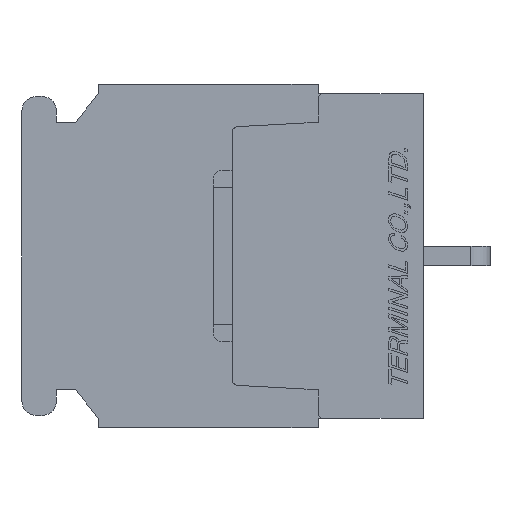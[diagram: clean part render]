
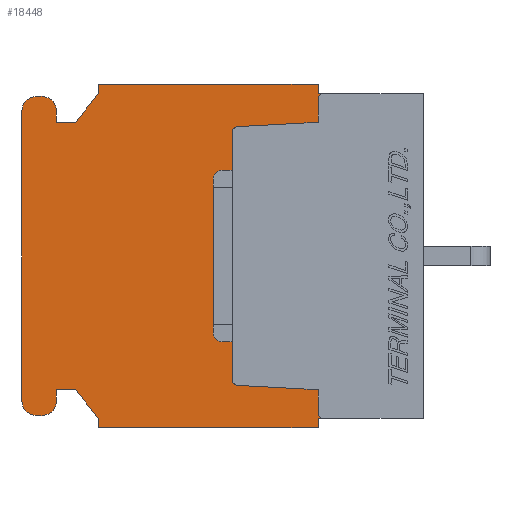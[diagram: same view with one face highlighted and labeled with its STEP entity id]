
A CAD part, left-side view. The second image highlights one B-rep face of the part: STEP entity #18448.
In plain terms, the highlighted planar face has unit normal (-1, 0, 0).
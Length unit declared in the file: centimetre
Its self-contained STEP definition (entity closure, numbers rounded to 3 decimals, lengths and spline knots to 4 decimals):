
#942=CIRCLE('',#31188,0.03);
#944=CIRCLE('',#31191,0.03);
#946=CIRCLE('',#31196,0.03);
#950=CIRCLE('',#31202,0.03);
#958=CIRCLE('',#31359,0.075);
#959=CIRCLE('',#31360,0.075);
#960=CIRCLE('',#31361,0.075);
#961=CIRCLE('',#31362,0.075);
#1573=VERTEX_POINT('',#25211);
#1574=VERTEX_POINT('',#25213);
#1577=VERTEX_POINT('',#25220);
#1578=VERTEX_POINT('',#25222);
#1580=VERTEX_POINT('',#25228);
#1582=VERTEX_POINT('',#25234);
#1584=VERTEX_POINT('',#25240);
#1589=VERTEX_POINT('',#25252);
#1590=VERTEX_POINT('',#25254);
#1592=VERTEX_POINT('',#25260);
#1951=VERTEX_POINT('',#26830);
#1952=VERTEX_POINT('',#26832);
#1953=VERTEX_POINT('',#26834);
#1954=VERTEX_POINT('',#26836);
#1955=VERTEX_POINT('',#26838);
#1956=VERTEX_POINT('',#26840);
#1957=VERTEX_POINT('',#26842);
#1958=VERTEX_POINT('',#26844);
#1959=VERTEX_POINT('',#26846);
#1960=VERTEX_POINT('',#26848);
#1961=VERTEX_POINT('',#26850);
#1962=VERTEX_POINT('',#26852);
#1963=VERTEX_POINT('',#26854);
#1964=VERTEX_POINT('',#26856);
#1965=VERTEX_POINT('',#26858);
#1966=VERTEX_POINT('',#26860);
#1967=VERTEX_POINT('',#26862);
#1968=VERTEX_POINT('',#26864);
#1969=VERTEX_POINT('',#26866);
#1970=VERTEX_POINT('',#26868);
#3524=VECTOR('',#20708,1.);
#3527=VECTOR('',#20712,1.);
#3533=VECTOR('',#20736,1.);
#3536=VECTOR('',#20740,1.);
#3938=VECTOR('',#21274,1.);
#3965=VECTOR('',#21334,1.);
#3966=VECTOR('',#21335,1.);
#3967=VECTOR('',#21336,1.);
#3968=VECTOR('',#21337,1.);
#3969=VECTOR('',#21338,1.);
#3970=VECTOR('',#21339,1.);
#3971=VECTOR('',#21340,1.);
#3972=VECTOR('',#21343,1.);
#3973=VECTOR('',#21346,1.);
#3974=VECTOR('',#21349,1.);
#3975=VECTOR('',#21352,1.);
#3976=VECTOR('',#21353,1.);
#3977=VECTOR('',#21354,1.);
#3978=VECTOR('',#21355,1.);
#3979=VECTOR('',#21356,1.);
#3980=VECTOR('',#21357,1.);
#3981=VECTOR('',#21358,1.);
#5644=LINE('',#25227,#3524);
#5647=LINE('',#25233,#3527);
#5653=LINE('',#25259,#3533);
#5656=LINE('',#25264,#3536);
#6058=LINE('',#26761,#3938);
#6085=LINE('',#26829,#3965);
#6086=LINE('',#26831,#3966);
#6087=LINE('',#26833,#3967);
#6088=LINE('',#26835,#3968);
#6089=LINE('',#26837,#3969);
#6090=LINE('',#26839,#3970);
#6091=LINE('',#26841,#3971);
#6092=LINE('',#26845,#3972);
#6093=LINE('',#26849,#3973);
#6094=LINE('',#26853,#3974);
#6095=LINE('',#26857,#3975);
#6096=LINE('',#26859,#3976);
#6097=LINE('',#26861,#3977);
#6098=LINE('',#26863,#3978);
#6099=LINE('',#26865,#3979);
#6100=LINE('',#26867,#3980);
#6101=LINE('',#26869,#3981);
#7919=EDGE_CURVE('',#1573,#1574,#942,.T.);
#7923=EDGE_CURVE('',#1577,#1578,#944,.T.);
#7926=EDGE_CURVE('',#1578,#1580,#5644,.T.);
#7929=EDGE_CURVE('',#1580,#1582,#5647,.T.);
#7932=EDGE_CURVE('',#1582,#1584,#946,.T.);
#7938=EDGE_CURVE('',#1589,#1590,#950,.T.);
#7941=EDGE_CURVE('',#1590,#1592,#5653,.T.);
#7944=EDGE_CURVE('',#1592,#1573,#5656,.T.);
#8452=EDGE_CURVE('',#1584,#1589,#6058,.T.);
#8485=EDGE_CURVE('',#1577,#1951,#6085,.T.);
#8486=EDGE_CURVE('',#1951,#1952,#6086,.T.);
#8487=EDGE_CURVE('',#1952,#1953,#6087,.T.);
#8488=EDGE_CURVE('',#1953,#1954,#6088,.T.);
#8489=EDGE_CURVE('',#1954,#1955,#6089,.T.);
#8490=EDGE_CURVE('',#1955,#1956,#6090,.T.);
#8491=EDGE_CURVE('',#1956,#1957,#6091,.T.);
#8492=EDGE_CURVE('',#1958,#1957,#958,.T.);
#8493=EDGE_CURVE('',#1958,#1959,#6092,.T.);
#8494=EDGE_CURVE('',#1960,#1959,#959,.T.);
#8495=EDGE_CURVE('',#1960,#1961,#6093,.T.);
#8496=EDGE_CURVE('',#1962,#1961,#960,.T.);
#8497=EDGE_CURVE('',#1962,#1963,#6094,.T.);
#8498=EDGE_CURVE('',#1964,#1963,#961,.T.);
#8499=EDGE_CURVE('',#1964,#1965,#6095,.T.);
#8500=EDGE_CURVE('',#1965,#1966,#6096,.T.);
#8501=EDGE_CURVE('',#1966,#1967,#6097,.T.);
#8502=EDGE_CURVE('',#1967,#1968,#6098,.T.);
#8503=EDGE_CURVE('',#1968,#1969,#6099,.T.);
#8504=EDGE_CURVE('',#1969,#1970,#6100,.T.);
#8505=EDGE_CURVE('',#1970,#1574,#6101,.T.);
#12513=ORIENTED_EDGE('',*,*,#7923,.F.);
#12514=ORIENTED_EDGE('',*,*,#8485,.T.);
#12515=ORIENTED_EDGE('',*,*,#8486,.T.);
#12516=ORIENTED_EDGE('',*,*,#8487,.T.);
#12517=ORIENTED_EDGE('',*,*,#8488,.T.);
#12518=ORIENTED_EDGE('',*,*,#8489,.T.);
#12519=ORIENTED_EDGE('',*,*,#8490,.T.);
#12520=ORIENTED_EDGE('',*,*,#8491,.T.);
#12521=ORIENTED_EDGE('',*,*,#8492,.F.);
#12522=ORIENTED_EDGE('',*,*,#8493,.T.);
#12523=ORIENTED_EDGE('',*,*,#8494,.F.);
#12524=ORIENTED_EDGE('',*,*,#8495,.T.);
#12525=ORIENTED_EDGE('',*,*,#8496,.F.);
#12526=ORIENTED_EDGE('',*,*,#8497,.T.);
#12527=ORIENTED_EDGE('',*,*,#8498,.F.);
#12528=ORIENTED_EDGE('',*,*,#8499,.T.);
#12529=ORIENTED_EDGE('',*,*,#8500,.T.);
#12530=ORIENTED_EDGE('',*,*,#8501,.T.);
#12531=ORIENTED_EDGE('',*,*,#8502,.T.);
#12532=ORIENTED_EDGE('',*,*,#8503,.T.);
#12533=ORIENTED_EDGE('',*,*,#8504,.T.);
#12534=ORIENTED_EDGE('',*,*,#8505,.T.);
#12535=ORIENTED_EDGE('',*,*,#7919,.F.);
#12536=ORIENTED_EDGE('',*,*,#7944,.F.);
#12537=ORIENTED_EDGE('',*,*,#7941,.F.);
#12538=ORIENTED_EDGE('',*,*,#7938,.F.);
#12539=ORIENTED_EDGE('',*,*,#8452,.F.);
#12540=ORIENTED_EDGE('',*,*,#7932,.F.);
#12541=ORIENTED_EDGE('',*,*,#7929,.F.);
#12542=ORIENTED_EDGE('',*,*,#7926,.F.);
#16137=EDGE_LOOP('',(#12513,#12514,#12515,#12516,#12517,#12518,#12519,#12520,
#12521,#12522,#12523,#12524,#12525,#12526,#12527,#12528,#12529,#12530,#12531,
#12532,#12533,#12534,#12535,#12536,#12537,#12538,#12539,#12540,#12541,#12542));
#17317=FACE_BOUND('',#16137,.T.);
#18448=ADVANCED_FACE('',(#17317),#19384,.F.);
#19384=PLANE('',#31358);
#20695=DIRECTION('',(-1.,0.,0.));
#20696=DIRECTION('',(0.,0.,0.03));
#20703=DIRECTION('',(-1.,0.,0.));
#20704=DIRECTION('',(0.,0.,0.03));
#20708=DIRECTION('',(0.,0.,-1.));
#20712=DIRECTION('',(0.,0.999,-0.054));
#20718=DIRECTION('',(-1.,0.,0.));
#20719=DIRECTION('',(0.,0.,0.03));
#20731=DIRECTION('',(-1.,0.,0.));
#20732=DIRECTION('',(0.,0.,0.03));
#20736=DIRECTION('',(0.,-0.999,-0.054));
#20740=DIRECTION('',(0.,0.,-1.));
#21274=DIRECTION('',(0.,0.,-1.));
#21333=DIRECTION('',(1.,0.,0.));
#21334=DIRECTION('',(0.,1.,0.));
#21335=DIRECTION('',(0.,0.,1.));
#21336=DIRECTION('',(0.,1.,0.));
#21337=DIRECTION('',(0.,0.,-1.));
#21338=DIRECTION('',(0.,0.625,-0.781));
#21339=DIRECTION('',(0.,1.,0.));
#21340=DIRECTION('',(0.,0.,1.));
#21341=DIRECTION('',(1.,0.,0.));
#21342=DIRECTION('',(0.,0.,-0.075));
#21343=DIRECTION('',(0.,1.,0.));
#21344=DIRECTION('',(1.,0.,0.));
#21345=DIRECTION('',(0.,0.,-0.075));
#21346=DIRECTION('',(0.,0.,-1.));
#21347=DIRECTION('',(1.,0.,0.));
#21348=DIRECTION('',(0.,0.,-0.075));
#21349=DIRECTION('',(0.,-1.,0.));
#21350=DIRECTION('',(1.,0.,0.));
#21351=DIRECTION('',(0.,0.,-0.075));
#21352=DIRECTION('',(0.,0.,1.));
#21353=DIRECTION('',(0.,-1.,0.));
#21354=DIRECTION('',(0.,-0.625,-0.781));
#21355=DIRECTION('',(0.,0.,-1.));
#21356=DIRECTION('',(0.,-1.,0.));
#21357=DIRECTION('',(0.,0.,1.));
#21358=DIRECTION('',(0.,-1.,0.));
#25211=CARTESIAN_POINT('',(-1.3,0.55,-0.82));
#25212=CARTESIAN_POINT('',(-1.3,0.52,-0.82));
#25213=CARTESIAN_POINT('',(-1.3,0.52,-0.85));
#25220=CARTESIAN_POINT('',(-1.3,0.52,0.85));
#25221=CARTESIAN_POINT('',(-1.3,0.52,0.82));
#25222=CARTESIAN_POINT('',(-1.3,0.55,0.82));
#25227=CARTESIAN_POINT('',(-1.3,0.55,0.82));
#25228=CARTESIAN_POINT('',(-1.3,0.55,0.7));
#25233=CARTESIAN_POINT('',(-1.3,0.55,0.7));
#25234=CARTESIAN_POINT('',(-1.3,0.9718,0.6773));
#25239=CARTESIAN_POINT('',(-1.3,0.97,0.6473));
#25240=CARTESIAN_POINT('',(-1.3,1.,0.6473));
#25252=CARTESIAN_POINT('',(-1.3,1.,-0.6473));
#25253=CARTESIAN_POINT('',(-1.3,0.97,-0.6473));
#25254=CARTESIAN_POINT('',(-1.3,0.9718,-0.6773));
#25259=CARTESIAN_POINT('',(-1.3,0.9718,-0.6773));
#25260=CARTESIAN_POINT('',(-1.3,0.55,-0.7));
#25264=CARTESIAN_POINT('',(-1.3,0.55,-0.7));
#26761=CARTESIAN_POINT('',(-1.3,1.,0.6473));
#26828=CARTESIAN_POINT('',(-1.3,1.0745,0.));
#26829=CARTESIAN_POINT('',(-1.3,0.,0.85));
#26830=CARTESIAN_POINT('',(-1.3,0.55,0.85));
#26831=CARTESIAN_POINT('',(-1.3,0.55,0.85));
#26832=CARTESIAN_POINT('',(-1.3,0.55,0.9));
#26833=CARTESIAN_POINT('',(-1.3,0.55,0.9));
#26834=CARTESIAN_POINT('',(-1.3,1.7,0.9));
#26835=CARTESIAN_POINT('',(-1.3,1.7,0.9));
#26836=CARTESIAN_POINT('',(-1.3,1.7,0.85));
#26837=CARTESIAN_POINT('',(-1.3,1.7,0.85));
#26838=CARTESIAN_POINT('',(-1.3,1.82,0.7));
#26839=CARTESIAN_POINT('',(-1.3,1.82,0.7));
#26840=CARTESIAN_POINT('',(-1.3,1.92,0.7));
#26841=CARTESIAN_POINT('',(-1.3,1.92,0.7));
#26842=CARTESIAN_POINT('',(-1.3,1.92,0.76));
#26843=CARTESIAN_POINT('',(-1.3,1.995,0.76));
#26844=CARTESIAN_POINT('',(-1.3,1.995,0.835));
#26845=CARTESIAN_POINT('',(-1.3,1.995,0.835));
#26846=CARTESIAN_POINT('',(-1.3,2.025,0.835));
#26847=CARTESIAN_POINT('',(-1.3,2.025,0.76));
#26848=CARTESIAN_POINT('',(-1.3,2.1,0.76));
#26849=CARTESIAN_POINT('',(-1.3,2.1,0.76));
#26850=CARTESIAN_POINT('',(-1.3,2.1,-0.76));
#26851=CARTESIAN_POINT('',(-1.3,2.025,-0.76));
#26852=CARTESIAN_POINT('',(-1.3,2.025,-0.835));
#26853=CARTESIAN_POINT('',(-1.3,2.025,-0.835));
#26854=CARTESIAN_POINT('',(-1.3,1.995,-0.835));
#26855=CARTESIAN_POINT('',(-1.3,1.995,-0.76));
#26856=CARTESIAN_POINT('',(-1.3,1.92,-0.76));
#26857=CARTESIAN_POINT('',(-1.3,1.92,-0.76));
#26858=CARTESIAN_POINT('',(-1.3,1.92,-0.7));
#26859=CARTESIAN_POINT('',(-1.3,1.92,-0.7));
#26860=CARTESIAN_POINT('',(-1.3,1.82,-0.7));
#26861=CARTESIAN_POINT('',(-1.3,1.82,-0.7));
#26862=CARTESIAN_POINT('',(-1.3,1.7,-0.85));
#26863=CARTESIAN_POINT('',(-1.3,1.7,-0.85));
#26864=CARTESIAN_POINT('',(-1.3,1.7,-0.9));
#26865=CARTESIAN_POINT('',(-1.3,1.7,-0.9));
#26866=CARTESIAN_POINT('',(-1.3,0.55,-0.9));
#26867=CARTESIAN_POINT('',(-1.3,0.55,-0.9));
#26868=CARTESIAN_POINT('',(-1.3,0.55,-0.85));
#26869=CARTESIAN_POINT('',(-1.3,0.55,-0.85));
#31188=AXIS2_PLACEMENT_3D('',#25212,#20695,#20696);
#31191=AXIS2_PLACEMENT_3D('',#25221,#20703,#20704);
#31196=AXIS2_PLACEMENT_3D('',#25239,#20718,#20719);
#31202=AXIS2_PLACEMENT_3D('',#25253,#20731,#20732);
#31358=AXIS2_PLACEMENT_3D('',#26828,#21333,$);
#31359=AXIS2_PLACEMENT_3D('',#26843,#21341,#21342);
#31360=AXIS2_PLACEMENT_3D('',#26847,#21344,#21345);
#31361=AXIS2_PLACEMENT_3D('',#26851,#21347,#21348);
#31362=AXIS2_PLACEMENT_3D('',#26855,#21350,#21351);
